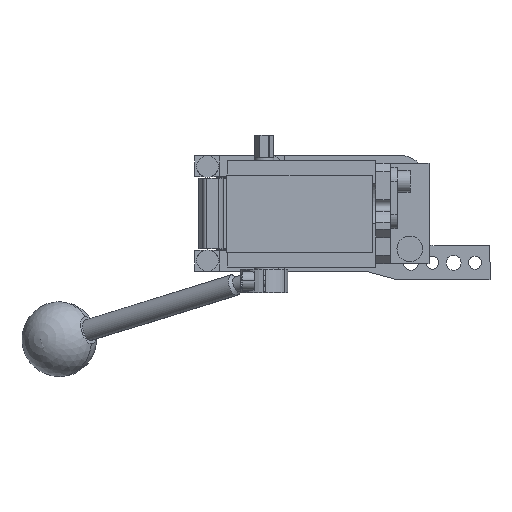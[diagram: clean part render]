
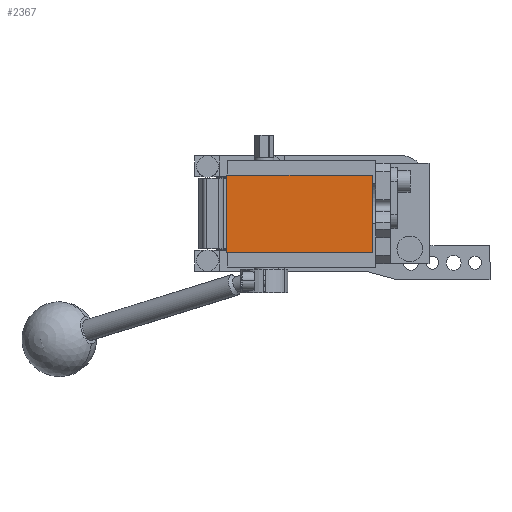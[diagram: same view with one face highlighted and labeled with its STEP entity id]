
A CAD part, front view. The second image highlights one B-rep face of the part: STEP entity #2367.
In plain terms, the highlighted planar face has unit normal (0, -1, 0).
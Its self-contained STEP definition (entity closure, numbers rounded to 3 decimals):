
#148 = EDGE_CURVE ( 'NONE', #13474, #1687, #6752, .T. ) ;
#1436 = DIRECTION ( 'NONE',  ( 0., 0., 1. ) ) ;
#1466 = EDGE_CURVE ( 'NONE', #14726, #2138, #8324, .T. ) ;
#1494 = CARTESIAN_POINT ( 'NONE',  ( -6., -233., 18. ) ) ;
#1687 = VERTEX_POINT ( 'NONE', #1494 ) ;
#2138 = VERTEX_POINT ( 'NONE', #3830 ) ;
#2198 = EDGE_CURVE ( 'NONE', #2138, #13474, #12327, .T. ) ;
#2298 = CARTESIAN_POINT ( 'NONE',  ( -6., -233., 18. ) ) ;
#2367 = ADVANCED_FACE ( 'NONE', ( #9214 ), #6850, .T. ) ;
#3732 = VECTOR ( 'NONE', #11738, 1000. ) ;
#3830 = CARTESIAN_POINT ( 'NONE',  ( 62., -233., -18. ) ) ;
#5157 = EDGE_LOOP ( 'NONE', ( #9315, #11787, #12644, #8727 ) ) ;
#5710 = AXIS2_PLACEMENT_3D ( 'NONE', #11688, #5975, #10809 ) ;
#5975 = DIRECTION ( 'NONE',  ( 0., -1., 0. ) ) ;
#6367 = CARTESIAN_POINT ( 'NONE',  ( 62., -233., 18. ) ) ;
#6514 = DIRECTION ( 'NONE',  ( -1., 0., 0. ) ) ;
#6752 = LINE ( 'NONE', #11591, #7460 ) ;
#6850 = PLANE ( 'NONE',  #5710 ) ;
#6897 = CARTESIAN_POINT ( 'NONE',  ( -6., -233., -18. ) ) ;
#7460 = VECTOR ( 'NONE', #6514, 1000. ) ;
#8324 = LINE ( 'NONE', #6897, #3732 ) ;
#8727 = ORIENTED_EDGE ( 'NONE', *, *, #148, .T. ) ;
#8951 = VECTOR ( 'NONE', #11989, 1000. ) ;
#9214 = FACE_OUTER_BOUND ( 'NONE', #5157, .T. ) ;
#9315 = ORIENTED_EDGE ( 'NONE', *, *, #14707, .T. ) ;
#10809 = DIRECTION ( 'NONE',  ( 0., 0., -1. ) ) ;
#11591 = CARTESIAN_POINT ( 'NONE',  ( -6., -233., 18. ) ) ;
#11688 = CARTESIAN_POINT ( 'NONE',  ( 0., -233., 0. ) ) ;
#11738 = DIRECTION ( 'NONE',  ( 1., 0., 0. ) ) ;
#11751 = CARTESIAN_POINT ( 'NONE',  ( 62., -233., 18. ) ) ;
#11787 = ORIENTED_EDGE ( 'NONE', *, *, #1466, .T. ) ;
#11989 = DIRECTION ( 'NONE',  ( 0., 0., -1. ) ) ;
#12327 = LINE ( 'NONE', #6367, #12508 ) ;
#12508 = VECTOR ( 'NONE', #1436, 1000. ) ;
#12644 = ORIENTED_EDGE ( 'NONE', *, *, #2198, .T. ) ;
#13189 = LINE ( 'NONE', #2298, #8951 ) ;
#13474 = VERTEX_POINT ( 'NONE', #11751 ) ;
#14603 = CARTESIAN_POINT ( 'NONE',  ( -6., -233., -18. ) ) ;
#14707 = EDGE_CURVE ( 'NONE', #1687, #14726, #13189, .T. ) ;
#14726 = VERTEX_POINT ( 'NONE', #14603 ) ;
